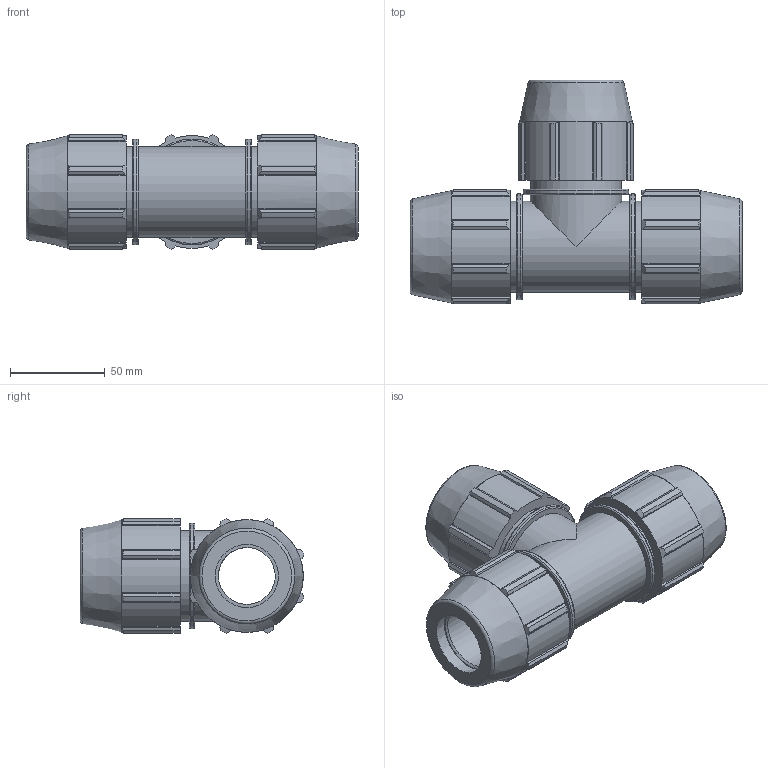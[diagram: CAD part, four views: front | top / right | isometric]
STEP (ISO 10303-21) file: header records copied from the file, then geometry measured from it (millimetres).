
FILE_DESCRIPTION(/* description */ ('PLASSON TEE 1'''' - 1'''' - 1'''''),/* implementation_level */ '2;1');
FILE_NAME(/* name */ 'C:\Dropbox\KIMPROJECTS-Inventor 2019\99-16-3568-Processing Inch\ASTM Compression 2021\0704M0\0704M0100.ipt.stp',/* time_stamp */ '2021-08-26T12:31:23+03:00',/* author */ ('KIM'),/* organization */ (''),/* preprocessor_version */ 'ST-DEVELOPER v17.2',/* originating_system */ 'Autodesk Inventor 2019',/* authorisation */ '');
FILE_SCHEMA (('AUTOMOTIVE_DESIGN { 1 0 10303 214 3 1 1 }'));
Length unit declared in the file: inch
Products named in the file (1): 0704M0100
Bounding box: 175.01 x 118 x 60.23 mm (x, y, z)
Volume: 366209.3 mm3; surface area: 78432.1 mm2
Topology: 1 solids, 1 shells, 212 faces, 626 edges, 430 vertices
Faces by surface type: plane 114, cylinder 61, cone 28, torus 9
Full cylindrical faces by diameter (mm): 29.97 x2, 33.3 x3, 48.006 x5, 55.687 x3
Entity records: 7404 total; most frequent: CARTESIAN_POINT 1429, ORIENTED_EDGE 1252, DIRECTION 1203, EDGE_CURVE 626, AXIS2_PLACEMENT_3D 444, VERTEX_POINT 430, LINE 315, VECTOR 315
